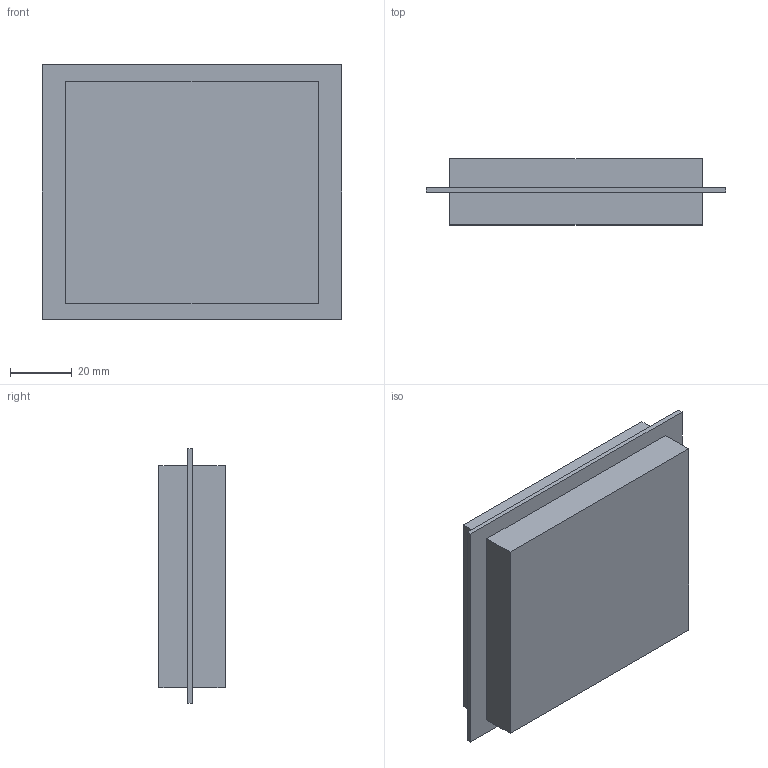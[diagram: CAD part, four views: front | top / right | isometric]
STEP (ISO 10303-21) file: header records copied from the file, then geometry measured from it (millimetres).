
FILE_DESCRIPTION(('Open CASCADE Model'),'2;1');
FILE_NAME('sband_patch','2026-08-12T02:42:46',('Author'),('Open CASCADE' ),'Open CASCADE STEP processor 7.9','build123d','Unknown');
FILE_SCHEMA(('AUTOMOTIVE_DESIGN { 1 0 10303 214 1 1 1 1 }'));
Length unit declared in the file: millimetre
Products named in the file (4): sband_patch; COMPOUND
Assembly tree (3 placements, depth 2):
  sband_patch
    COMPOUND
    COMPOUND
    COMPOUND
Bounding box: 97 x 21.5 x 82.6 mm (x, y, z)
Volume: 130098.3 mm3; surface area: 46339.2 mm2
Topology: 3 solids, 3 shells, 18 faces, 36 edges, 24 vertices
Faces by surface type: plane 18
Entity records: 988 total; most frequent: CARTESIAN_POINT 154, DIRECTION 152, LINE 108, VECTOR 108, ORIENTED_EDGE 72, PCURVE 72, DEFINITIONAL_REPRESENTATION 72, EDGE_CURVE 36
